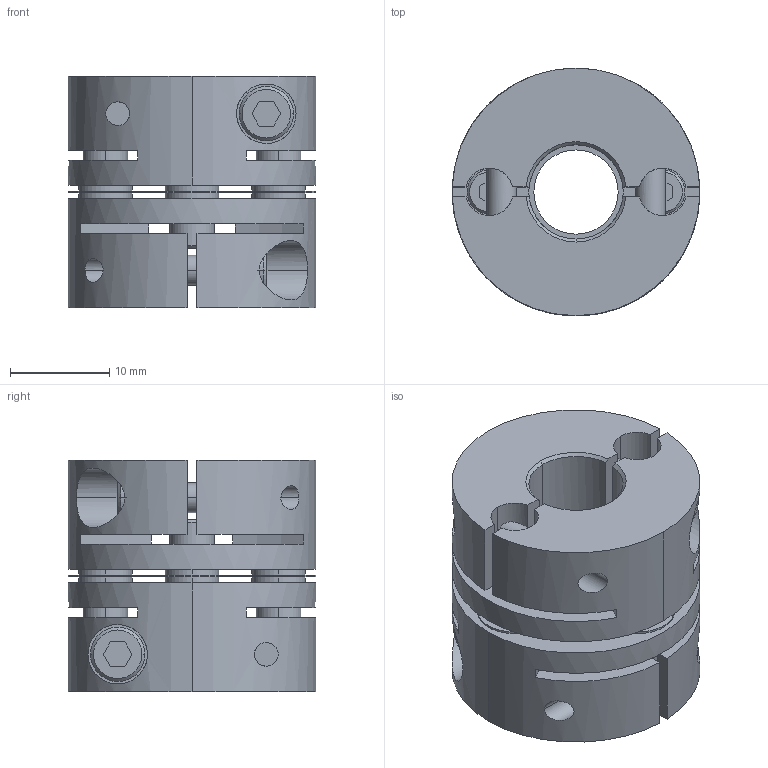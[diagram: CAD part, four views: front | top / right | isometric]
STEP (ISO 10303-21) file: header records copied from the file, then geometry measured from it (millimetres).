
FILE_DESCRIPTION((''),'2;1');
FILE_NAME('LAS-25C-9.525×10.stp','2011-08-10T10:29:13',(''),(''),'AutoCAD STEP 2000i','AutoCAD 2000i',', , ');
FILE_SCHEMA(('CONFIG_CONTROL_DESIGN'));
Length unit declared in the file: millimetre
Products named in the file (5): LAS-25C-6×6; 忣兜1; LA-2502-D06-1; LA-2502-D06; LAS25-ITA
Assembly tree (4 placements, depth 2):
  LAS-25C-6×6
    忣兜1
    LA-2502-D06-1
    LA-2502-D06
    LAS25-ITA
Bounding box: 25 x 25 x 23.4 mm (x, y, z)
Volume: 7949.7 mm3; surface area: 6751.4 mm2
Topology: 1 solids, 1 shells, 244 faces, 648 edges, 424 vertices
Faces by surface type: plane 112, cylinder 104, cone 28
Entity records: 8499 total; most frequent: CARTESIAN_POINT 2121, DIRECTION 1326, ORIENTED_EDGE 1296, EDGE_CURVE 648, AXIS2_PLACEMENT_3D 485, VERTEX_POINT 424, VECTOR 356, LINE 356
